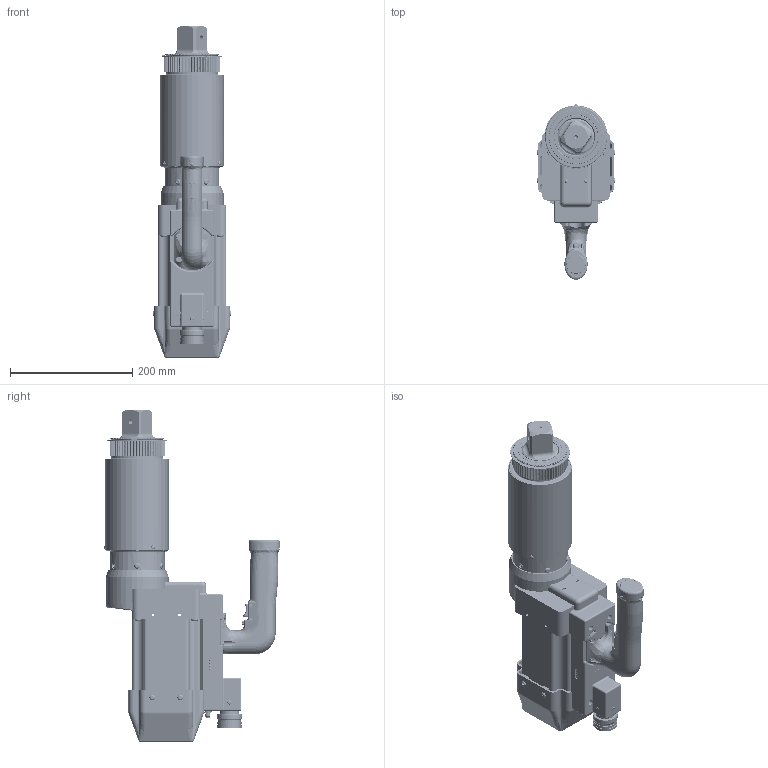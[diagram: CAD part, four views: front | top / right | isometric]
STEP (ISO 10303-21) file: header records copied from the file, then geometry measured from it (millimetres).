
FILE_DESCRIPTION (( 'STEP AP214' ), '1' );
FILE_NAME ('AEJ4W998100B.STEP', '2021-04-09T22:41:42', ( '' ), ( '' ), 'SwSTEP 2.0', 'SolidWorks 2020', '' );
FILE_SCHEMA (( 'AUTOMOTIVE_DESIGN' ));
Length unit declared in the file: inch
Products named in the file (1): AEJ4W998100B
Bounding box: 128.96 x 287.14 x 543.72 mm (x, y, z)
Volume: 1969861 mm3; surface area: 808200 mm2
Topology: 119 solids, 119 shells, 6362 faces, 16058 edges, 10232 vertices
Faces by surface type: plane 2493, cylinder 1900, bspline 900, cone 606, torus 419, sphere 44
Entity records: 381794 total; most frequent: CARTESIAN_POINT 150513, ORIENTED_EDGE 31872, DIRECTION 28424, EDGE_CURVE 15936, VERTEX_POINT 10232, AXIS2_PLACEMENT_3D 10216, VECTOR 7992, LINE 7992
